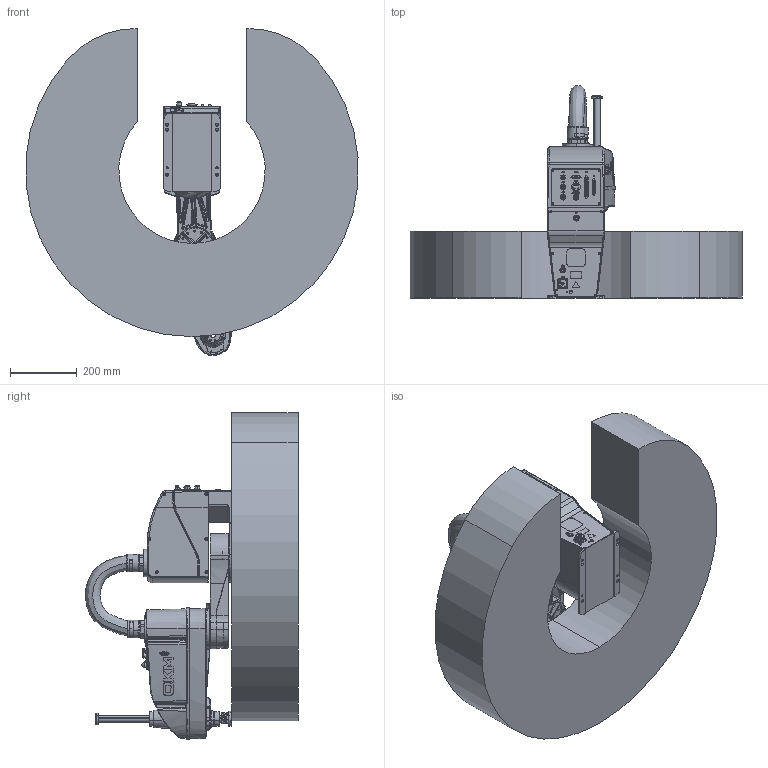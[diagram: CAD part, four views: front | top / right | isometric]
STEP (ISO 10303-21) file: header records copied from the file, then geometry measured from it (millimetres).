
FILE_DESCRIPTION (( 'STEP AP214' ), '1' );
FILE_NAME ('AH6-0500-0204-2000-T0-2.0.0.STEP', '2020-04-23T07:52:12', ( '' ), ( '' ), 'SwSTEP 2.0', 'SolidWorks 2017', '' );
FILE_SCHEMA (( 'AUTOMOTIVE_DESIGN' ));
Length unit declared in the file: millimetre
Products named in the file (7): AH6-0500-0204-2000-T6-2.0.0; AH6-0500-0204-2000-T4-2.0.0; AH6-0500-0204-2000-T2-2.0.0; AH6-0500-0204-2000-T1-2.0.0; AH6-0500-0204-2000-T5-2.0.0; AH6-0500-0204-2000-T3-2.0.0; AH6-0500-0204-2000-T0-2.0.0
Assembly tree (6 placements, depth 2):
  AH6-0500-0204-2000-T0-2.0.0
    AH6-0500-0204-2000-T3-2.0.0
    AH6-0500-0204-2000-T5-2.0.0
    AH6-0500-0204-2000-T1-2.0.0
    AH6-0500-0204-2000-T2-2.0.0
    AH6-0500-0204-2000-T4-2.0.0
    AH6-0500-0204-2000-T6-2.0.0
Bounding box: 997.2 x 640.74 x 982.05 mm (x, y, z)
Volume: 131425559.8 mm3; surface area: 3081936 mm2
Topology: 7 solids, 7 shells, 6592 faces, 17125 edges, 10951 vertices
Faces by surface type: plane 3042, bspline 1679, cylinder 1191, cone 497, torus 163, sphere 20
Entity records: 354812 total; most frequent: CARTESIAN_POINT 164792, ORIENTED_EDGE 34038, DIRECTION 24860, EDGE_CURVE 17019, VERTEX_POINT 10946, VECTOR 8734, LINE 8734, AXIS2_PLACEMENT_3D 8063
